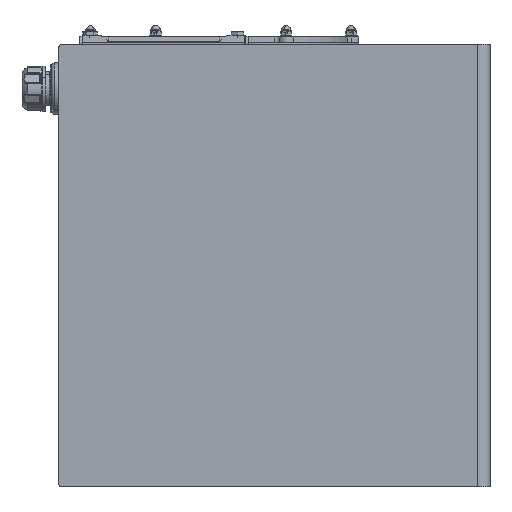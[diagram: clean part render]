
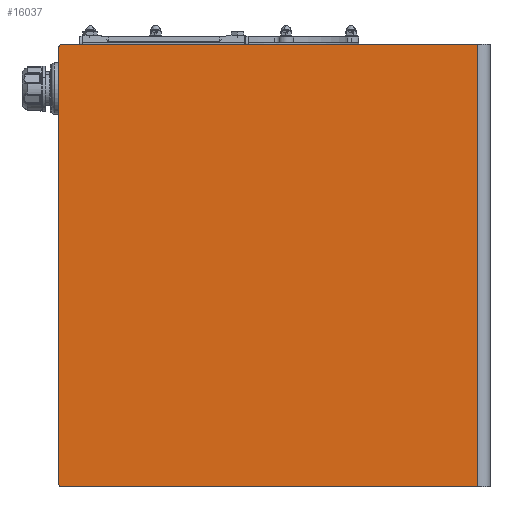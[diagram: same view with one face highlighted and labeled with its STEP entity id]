
A CAD part, left-side view. The second image highlights one B-rep face of the part: STEP entity #16037.
In plain terms, the highlighted planar face has unit normal (-1, 0, 0) as drawn and (0, 0, 1) by its records, which use the part's own axes.
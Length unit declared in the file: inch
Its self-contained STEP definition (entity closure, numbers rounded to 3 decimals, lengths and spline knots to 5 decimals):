
#1444 = AXIS2_PLACEMENT_3D ( 'NONE', #27957, #34475, #31694 ) ;
#2773 = VECTOR ( 'NONE', #28919, 39.37008 ) ;
#4340 = LINE ( 'NONE', #21989, #19008 ) ;
#7319 = CARTESIAN_POINT ( 'NONE',  ( 15., 14.375, 0. ) ) ;
#8340 = ORIENTED_EDGE ( 'NONE', *, *, #35509, .T. ) ;
#11499 = DIRECTION ( 'NONE',  ( 0., 1., 0. ) ) ;
#12260 = ORIENTED_EDGE ( 'NONE', *, *, #17153, .T. ) ;
#12273 = EDGE_CURVE ( 'NONE', #19942, #16186, #28009, .T. ) ;
#12663 = CARTESIAN_POINT ( 'NONE',  ( 0., 0., 0. ) ) ;
#12796 = ORIENTED_EDGE ( 'NONE', *, *, #12273, .T. ) ;
#13355 = DIRECTION ( 'NONE',  ( -1., 0., 0. ) ) ;
#13503 = AXIS2_PLACEMENT_3D ( 'NONE', #19455, #31697, #36570 ) ;
#13811 = DIRECTION ( 'NONE',  ( 1., 0., 0. ) ) ;
#14615 = CARTESIAN_POINT ( 'NONE',  ( -15., -13.7812, 0. ) ) ;
#16037 = ADVANCED_FACE ( 'NONE', ( #32620 ), #18312, .F. ) ;
#16186 = VERTEX_POINT ( 'NONE', #28087 ) ;
#16947 = LINE ( 'NONE', #28441, #23457 ) ;
#17053 = CARTESIAN_POINT ( 'NONE',  ( -14.75, 14.625, 0. ) ) ;
#17153 = EDGE_CURVE ( 'NONE', #18266, #17448, #27534, .T. ) ;
#17448 = VERTEX_POINT ( 'NONE', #32227 ) ;
#17492 = EDGE_CURVE ( 'NONE', #32233, #18289, #35635, .T. ) ;
#17533 = AXIS2_PLACEMENT_3D ( 'NONE', #12663, #24139, #35605 ) ;
#18266 = VERTEX_POINT ( 'NONE', #14615 ) ;
#18289 = VERTEX_POINT ( 'NONE', #26080 ) ;
#18312 = PLANE ( 'NONE',  #17533 ) ;
#19008 = VECTOR ( 'NONE', #13355, 39.37008 ) ;
#19455 = CARTESIAN_POINT ( 'NONE',  ( 14.75, 14.375, 0. ) ) ;
#19942 = VERTEX_POINT ( 'NONE', #7319 ) ;
#20101 = EDGE_LOOP ( 'NONE', ( #8340, #12796, #25416, #26185, #36902, #12260 ) ) ;
#20442 = LINE ( 'NONE', #23253, #2773 ) ;
#21989 = CARTESIAN_POINT ( 'NONE',  ( -15., 14.625, 0. ) ) ;
#23033 = VECTOR ( 'NONE', #13811, 39.37008 ) ;
#23253 = CARTESIAN_POINT ( 'NONE',  ( -15., -14.625, 0. ) ) ;
#23457 = VECTOR ( 'NONE', #11499, 39.37008 ) ;
#24139 = DIRECTION ( 'NONE',  ( 0., 0., -1. ) ) ;
#24280 = EDGE_CURVE ( 'NONE', #16186, #32233, #4340, .T. ) ;
#24711 = CARTESIAN_POINT ( 'NONE',  ( -15., -13.7812, 0. ) ) ;
#25416 = ORIENTED_EDGE ( 'NONE', *, *, #24280, .T. ) ;
#26080 = CARTESIAN_POINT ( 'NONE',  ( -15., 14.375, 0. ) ) ;
#26185 = ORIENTED_EDGE ( 'NONE', *, *, #17492, .T. ) ;
#27534 = LINE ( 'NONE', #24711, #23033 ) ;
#27957 = CARTESIAN_POINT ( 'NONE',  ( -14.75, 14.375, 0. ) ) ;
#28009 = CIRCLE ( 'NONE', #13503, 0.25 ) ;
#28087 = CARTESIAN_POINT ( 'NONE',  ( 14.75, 14.625, 0. ) ) ;
#28441 = CARTESIAN_POINT ( 'NONE',  ( 15., -14.625, 0. ) ) ;
#28919 = DIRECTION ( 'NONE',  ( 0., -1., 0. ) ) ;
#31452 = EDGE_CURVE ( 'NONE', #18289, #18266, #20442, .T. ) ;
#31694 = DIRECTION ( 'NONE',  ( -1., 0., 0. ) ) ;
#31697 = DIRECTION ( 'NONE',  ( 0., 0., 1. ) ) ;
#32227 = CARTESIAN_POINT ( 'NONE',  ( 15., -13.7812, 0. ) ) ;
#32233 = VERTEX_POINT ( 'NONE', #17053 ) ;
#32620 = FACE_OUTER_BOUND ( 'NONE', #20101, .T. ) ;
#34475 = DIRECTION ( 'NONE',  ( 0., 0., 1. ) ) ;
#35509 = EDGE_CURVE ( 'NONE', #17448, #19942, #16947, .T. ) ;
#35605 = DIRECTION ( 'NONE',  ( -1., 0., 0. ) ) ;
#35635 = CIRCLE ( 'NONE', #1444, 0.25 ) ;
#36570 = DIRECTION ( 'NONE',  ( -1., 0., 0. ) ) ;
#36902 = ORIENTED_EDGE ( 'NONE', *, *, #31452, .T. ) ;
